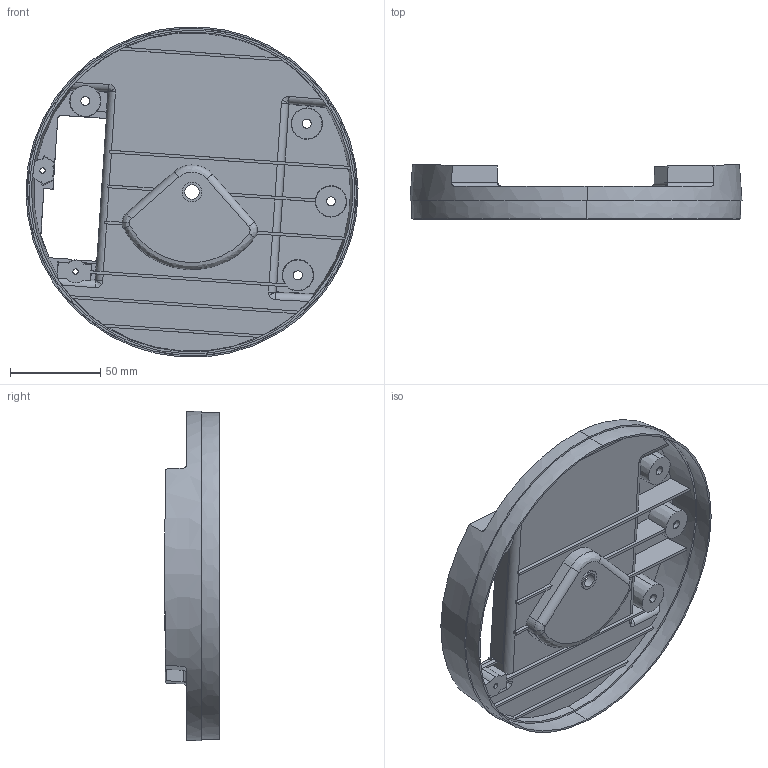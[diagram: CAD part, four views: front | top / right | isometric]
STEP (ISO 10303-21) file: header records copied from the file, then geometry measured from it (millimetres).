
FILE_DESCRIPTION (( 'STEP AP203' ), '1' );
FILE_NAME ('Pied de fourche_2_Défaut_sldprt.STEP', '2018-04-06T14:28:51', ( '' ), ( '' ), 'SwSTEP 2.0', 'SolidWorks 2013', '' );
FILE_SCHEMA (( 'CONFIG_CONTROL_DESIGN' ));
Length unit declared in the file: millimetre
Products named in the file (1): Pied de fourche_2_Défaut_sldprt
Bounding box: 183.66 x 30 x 182.46 mm (x, y, z)
Volume: 120887.9 mm3; surface area: 92509.8 mm2
Topology: 1 solids, 1 shells, 301 faces, 844 edges, 538 vertices
Faces by surface type: plane 150, bspline 63, cylinder 57, cone 31
Entity records: 25093 total; most frequent: CARTESIAN_POINT 18076, ORIENTED_EDGE 1644, DIRECTION 1176, EDGE_CURVE 822, VERTEX_POINT 536, AXIS2_PLACEMENT_3D 398, LINE 380, VECTOR 380
